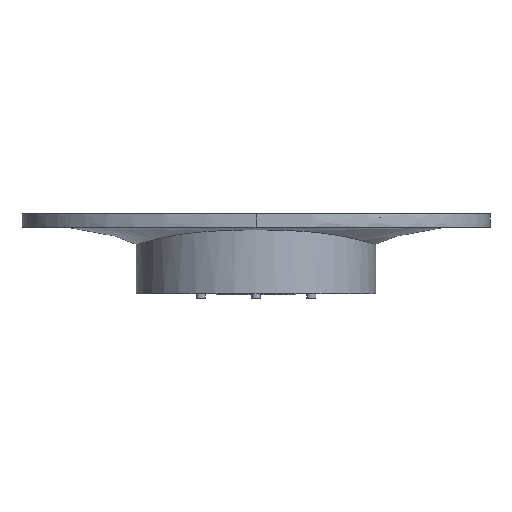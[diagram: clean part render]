
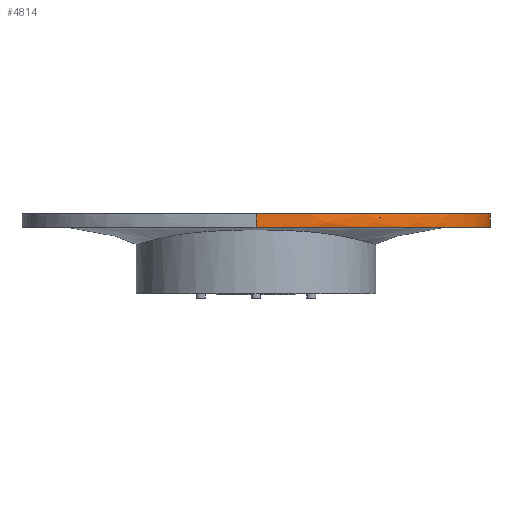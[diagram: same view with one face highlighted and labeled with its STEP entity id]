
A CAD part, front view. The second image highlights one B-rep face of the part: STEP entity #4814.
In plain terms, the highlighted free-form (B-spline) face has degree [3, 3] with [4, 10] control points.
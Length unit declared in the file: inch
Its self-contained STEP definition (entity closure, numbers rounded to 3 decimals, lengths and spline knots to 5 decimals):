
#158=B_SPLINE_SURFACE_WITH_KNOTS('',3,3,((#9776,#9777,#9778,#9779,#9780,
#9781,#9782,#9783,#9784,#9785),(#9786,#9787,#9788,#9789,#9790,#9791,#9792,
#9793,#9794,#9795),(#9796,#9797,#9798,#9799,#9800,#9801,#9802,#9803,#9804,
#9805),(#9806,#9807,#9808,#9809,#9810,#9811,#9812,#9813,#9814,#9815)),
 .UNSPECIFIED.,.F.,.F.,.F.,(4,4),(4,1,2,1,1,1,4),(0.,0.635),(0.,0.05,0.125,
0.175,0.2,0.225,0.25),
 .UNSPECIFIED.);
#560=FACE_OUTER_BOUND('',#862,.T.);
#862=EDGE_LOOP('',(#4450,#4451,#4452,#4453));
#1170=B_SPLINE_CURVE_WITH_KNOTS('',3,(#9409,#9410,#9411,#9412,#9413,#9414,
#9415,#9416,#9417,#9418),.UNSPECIFIED.,.F.,.F.,(4,1,2,1,1,1,4),(0.,0.05,
0.125,0.175,0.2,0.225,0.25),
 .UNSPECIFIED.);
#1191=B_SPLINE_CURVE_WITH_KNOTS('',3,(#9819,#9820,#9821,#9822,#9823,#9824,
#9825,#9826,#9827,#9828),.UNSPECIFIED.,.F.,.F.,(4,1,2,1,1,1,4),(0.,0.05,
0.125,0.175,0.2,0.225,0.25),
 .UNSPECIFIED.);
#1541=LINE('',#9817,#1874);
#1542=LINE('',#9829,#1875);
#1874=VECTOR('',#5646,0.3937);
#1875=VECTOR('',#5647,0.3937);
#2347=VERTEX_POINT('',#9384);
#2348=VERTEX_POINT('',#9385);
#2388=VERTEX_POINT('',#9816);
#2389=VERTEX_POINT('',#9818);
#3036=EDGE_CURVE('',#2348,#2347,#1170,.T.);
#3089=EDGE_CURVE('',#2348,#2388,#1541,.T.);
#3090=EDGE_CURVE('',#2388,#2389,#1191,.T.);
#3091=EDGE_CURVE('',#2347,#2389,#1542,.T.);
#4450=ORIENTED_EDGE('',*,*,#3089,.T.);
#4451=ORIENTED_EDGE('',*,*,#3090,.T.);
#4452=ORIENTED_EDGE('',*,*,#3091,.F.);
#4453=ORIENTED_EDGE('',*,*,#3036,.F.);
#4814=ADVANCED_FACE('',(#560),#158,.T.);
#5646=DIRECTION('',(0.,0.,-1.));
#5647=DIRECTION('',(0.,0.,-1.));
#9384=CARTESIAN_POINT('',(4.39,0.,1.5));
#9385=CARTESIAN_POINT('',(0.00002,-2.862,1.5));
#9409=CARTESIAN_POINT('Ctrl Pts',(0.00002,-2.862,
1.5));
#9410=CARTESIAN_POINT('Ctrl Pts',(0.44443,-2.86199,1.5));
#9411=CARTESIAN_POINT('Ctrl Pts',(1.55153,-2.74811,1.5));
#9412=CARTESIAN_POINT('Ctrl Pts',(2.54063,-2.38366,1.5));
#9413=CARTESIAN_POINT('Ctrl Pts',(3.36146,-1.87704,1.5));
#9414=CARTESIAN_POINT('Ctrl Pts',(3.78101,-1.51745,1.5));
#9415=CARTESIAN_POINT('Ctrl Pts',(4.16188,-0.95159,1.5));
#9416=CARTESIAN_POINT('Ctrl Pts',(4.34575,-0.48967,1.5));
#9417=CARTESIAN_POINT('Ctrl Pts',(4.38999,-0.16401,1.5));
#9418=CARTESIAN_POINT('Ctrl Pts',(4.39,0.,1.5));
#9776=CARTESIAN_POINT('Ctrl Pts',(0.00002,-2.862,
1.5));
#9777=CARTESIAN_POINT('Ctrl Pts',(0.44443,-2.86199,1.5));
#9778=CARTESIAN_POINT('Ctrl Pts',(1.55153,-2.74811,1.5));
#9779=CARTESIAN_POINT('Ctrl Pts',(2.54063,-2.38366,1.5));
#9780=CARTESIAN_POINT('Ctrl Pts',(3.36146,-1.87704,1.5));
#9781=CARTESIAN_POINT('Ctrl Pts',(3.78101,-1.51745,1.5));
#9782=CARTESIAN_POINT('Ctrl Pts',(4.16188,-0.95159,1.5));
#9783=CARTESIAN_POINT('Ctrl Pts',(4.34575,-0.48967,1.5));
#9784=CARTESIAN_POINT('Ctrl Pts',(4.38999,-0.16401,1.5));
#9785=CARTESIAN_POINT('Ctrl Pts',(4.39,0.,1.5));
#9786=CARTESIAN_POINT('Ctrl Pts',(0.00002,-2.862,
1.41667));
#9787=CARTESIAN_POINT('Ctrl Pts',(0.44443,-2.86199,1.41667));
#9788=CARTESIAN_POINT('Ctrl Pts',(1.55153,-2.74811,1.41667));
#9789=CARTESIAN_POINT('Ctrl Pts',(2.54063,-2.38366,1.41667));
#9790=CARTESIAN_POINT('Ctrl Pts',(3.36146,-1.87704,1.41667));
#9791=CARTESIAN_POINT('Ctrl Pts',(3.78101,-1.51745,1.41667));
#9792=CARTESIAN_POINT('Ctrl Pts',(4.16188,-0.95159,1.41667));
#9793=CARTESIAN_POINT('Ctrl Pts',(4.34575,-0.48967,1.41667));
#9794=CARTESIAN_POINT('Ctrl Pts',(4.38999,-0.16401,1.41667));
#9795=CARTESIAN_POINT('Ctrl Pts',(4.39,0.,1.41667));
#9796=CARTESIAN_POINT('Ctrl Pts',(0.00002,-2.862,
1.33333));
#9797=CARTESIAN_POINT('Ctrl Pts',(0.44443,-2.86199,1.33333));
#9798=CARTESIAN_POINT('Ctrl Pts',(1.55153,-2.74811,1.33333));
#9799=CARTESIAN_POINT('Ctrl Pts',(2.54063,-2.38366,1.33333));
#9800=CARTESIAN_POINT('Ctrl Pts',(3.36146,-1.87704,1.33333));
#9801=CARTESIAN_POINT('Ctrl Pts',(3.78101,-1.51745,1.33333));
#9802=CARTESIAN_POINT('Ctrl Pts',(4.16188,-0.95159,1.33333));
#9803=CARTESIAN_POINT('Ctrl Pts',(4.34575,-0.48967,1.33333));
#9804=CARTESIAN_POINT('Ctrl Pts',(4.38999,-0.16401,1.33333));
#9805=CARTESIAN_POINT('Ctrl Pts',(4.39,0.,1.33333));
#9806=CARTESIAN_POINT('Ctrl Pts',(0.00002,-2.862,
1.25));
#9807=CARTESIAN_POINT('Ctrl Pts',(0.44443,-2.86199,1.25));
#9808=CARTESIAN_POINT('Ctrl Pts',(1.55153,-2.74811,1.25));
#9809=CARTESIAN_POINT('Ctrl Pts',(2.54063,-2.38366,1.25));
#9810=CARTESIAN_POINT('Ctrl Pts',(3.36146,-1.87704,1.25));
#9811=CARTESIAN_POINT('Ctrl Pts',(3.78101,-1.51745,1.25));
#9812=CARTESIAN_POINT('Ctrl Pts',(4.16188,-0.95159,1.25));
#9813=CARTESIAN_POINT('Ctrl Pts',(4.34575,-0.48967,1.25));
#9814=CARTESIAN_POINT('Ctrl Pts',(4.38999,-0.16401,1.25));
#9815=CARTESIAN_POINT('Ctrl Pts',(4.39,0.,1.25));
#9816=CARTESIAN_POINT('',(0.00002,-2.862,1.25));
#9817=CARTESIAN_POINT('',(0.00002,-2.862,1.5));
#9818=CARTESIAN_POINT('',(4.39,0.,1.25));
#9819=CARTESIAN_POINT('Ctrl Pts',(0.00002,-2.862,
1.25));
#9820=CARTESIAN_POINT('Ctrl Pts',(0.44443,-2.86199,1.25));
#9821=CARTESIAN_POINT('Ctrl Pts',(1.55153,-2.74811,1.25));
#9822=CARTESIAN_POINT('Ctrl Pts',(2.54063,-2.38366,1.25));
#9823=CARTESIAN_POINT('Ctrl Pts',(3.36146,-1.87704,1.25));
#9824=CARTESIAN_POINT('Ctrl Pts',(3.78101,-1.51745,1.25));
#9825=CARTESIAN_POINT('Ctrl Pts',(4.16188,-0.95159,1.25));
#9826=CARTESIAN_POINT('Ctrl Pts',(4.34575,-0.48967,1.25));
#9827=CARTESIAN_POINT('Ctrl Pts',(4.38999,-0.16401,1.25));
#9828=CARTESIAN_POINT('Ctrl Pts',(4.39,0.,1.25));
#9829=CARTESIAN_POINT('',(4.39,0.,1.5));
